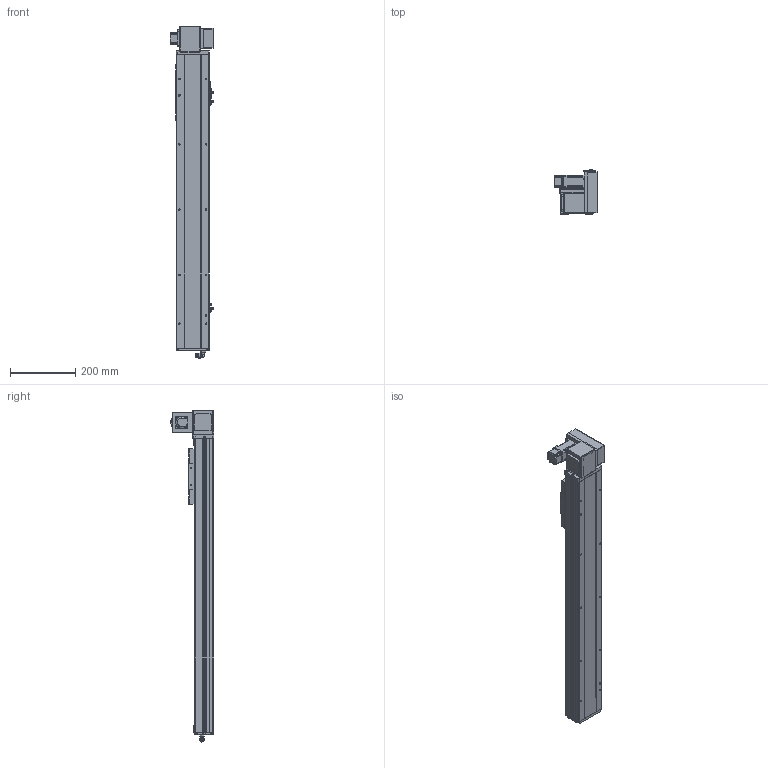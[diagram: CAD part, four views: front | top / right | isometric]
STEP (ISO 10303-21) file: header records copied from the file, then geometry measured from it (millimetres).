
FILE_DESCRIPTION (( 'STEP AP214' ), '1' );
FILE_NAME ('TPE10-L32-650-RU-T10-C4.STEP', '2023-03-13T08:18:42', ( '' ), ( '' ), 'SwSTEP 2.0', 'SolidWorks 2020', '' );
FILE_SCHEMA (( 'AUTOMOTIVE_DESIGN' ));
Length unit declared in the file: millimetre
Products named in the file (15): 葩璃 TPT10-L-009 萇儂啣^TPE10-L32-RU-T10-C4_100W; 葩璃 TPF10-L-008 耜醱啣^TPE10-L32-RU-T10-C4; 葩璃 詩湍75^TPE10-L32-RU-T10-C4; hex nuts, style 1-grades ab gb_GB_FASTENER_NUT_SNAB1 M3-N; hexagon socket head cap screws gb_GB_FASTENER_SCREWS_HSHCS M3X6-N; hexagon head bolts-full thread gb_GB_FASTENER_BOLT_STBAB A M5X16-N; TPE10-L32-650-RU-T10-C4; 葩璃 pm-t65-672^TPE10-L32-RU-T10-C4; 葩璃 TPF10 詩湍揤啣 TPF10 12^TPE10-L32-RU-T10-C4; 葩璃 TPE10 賑雄殤 TPE10^TPE10-L32-RU-T10-C4; 葩璃 TPE10-L-002 耜裔ZTMT-102B-04^TPE10-L32-RU-T10-C4; 葩璃 侂狟100W^TPE10-L32-RU-T10-C4; 葩璃 TPE10-007 々湍釱MZ-169x88^TPE10-L32-RU-T10-C4; 葩璃 PL8-02^TPE10-L32-RU-T10-C4; 葩璃 TPE10-L-001 菁釱MZ-102A-01^TPE10-L32-RU-T10-C4
Assembly tree (28 placements, depth 2):
  TPE10-L32-650-RU-T10-C4
    葩璃 TPE10-L-001 菁釱MZ-102A-01^TPE10-L32-RU-T10-C4
    葩璃 TPE10-L-002 耜裔ZTMT-102B-04^TPE10-L32-RU-T10-C4  x2
    葩璃 詩湍75^TPE10-L32-RU-T10-C4
    葩璃 TPE10-007 々湍釱MZ-169x88^TPE10-L32-RU-T10-C4
    葩璃 TPF10-L-008 耜醱啣^TPE10-L32-RU-T10-C4
    葩璃 TPE10 賑雄殤 TPE10^TPE10-L32-RU-T10-C4
    葩璃 TPF10 詩湍揤啣 TPF10 12^TPE10-L32-RU-T10-C4  x2
    葩璃 TPT10-L-009 萇儂啣^TPE10-L32-RU-T10-C4_100W
    葩璃 pm-t65-672^TPE10-L32-RU-T10-C4  x3
    葩璃 PL8-02^TPE10-L32-RU-T10-C4
    葩璃 侂狟100W^TPE10-L32-RU-T10-C4
    hexagon socket head cap screws gb_GB_FASTENER_SCREWS_HSHCS M3X6-N  x6
    hex nuts, style 1-grades ab gb_GB_FASTENER_NUT_SNAB1 M3-N  x6
    hexagon head bolts-full thread gb_GB_FASTENER_BOLT_STBAB A M5X16-N
Bounding box: 134.23 x 134.65 x 1018.35 mm (x, y, z)
Volume: 3255924.3 mm3; surface area: 878897.1 mm2
Topology: 36 solids, 36 shells, 1604 faces, 4086 edges, 2584 vertices
Faces by surface type: plane 899, cylinder 481, cone 172, torus 26, bspline 24, sphere 2
Entity records: 37256 total; most frequent: CARTESIAN_POINT 7817, DIRECTION 5836, ORIENTED_EDGE 5648, EDGE_CURVE 2824, AXIS2_PLACEMENT_3D 2053, VERTEX_POINT 1811, VECTOR 1730, LINE 1730
